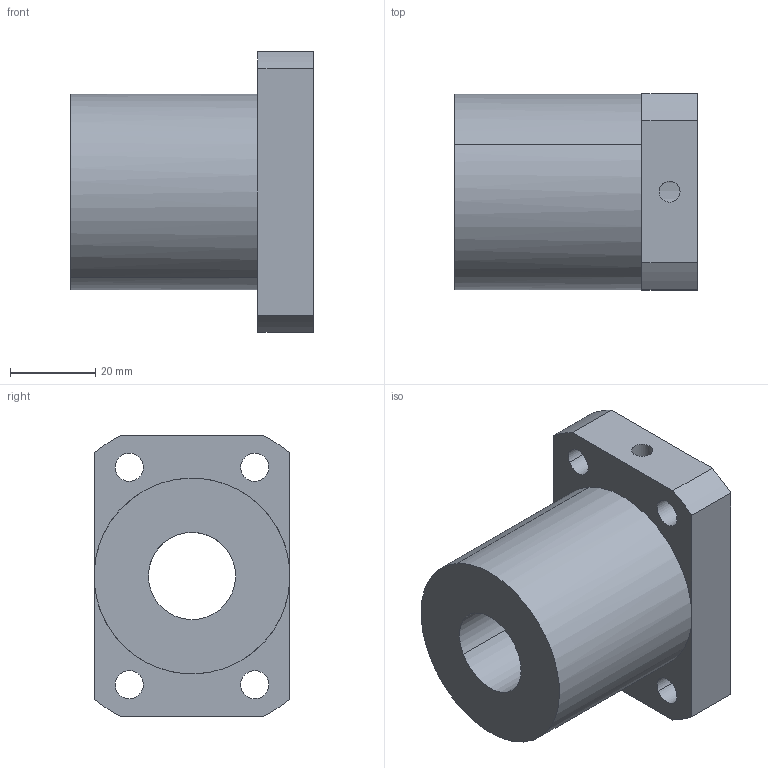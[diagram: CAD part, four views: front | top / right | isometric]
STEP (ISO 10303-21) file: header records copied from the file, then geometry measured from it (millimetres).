
FILE_DESCRIPTION(('CATIA V5 STEP Exchange'),'2;1');
FILE_NAME('C:\Users\aa\Documents\이댈\볼스크류\SFGR\링크X\SFGR2020K.stp','2018-11-16T05:07:52+00:00',('none'),('none'),'CATIA Version 5 Release 20 SP 7 (IN-10)','CATIA V5 STEP AP203','none');
FILE_SCHEMA(('CONFIG_CONTROL_DESIGN'));
Length unit declared in the file: millimetre
Products named in the file (1): Part1
Bounding box: 57 x 46 x 66 mm (x, y, z)
Volume: 89294.4 mm3; surface area: 19625.7 mm2
Topology: 1 solids, 1 shells, 40 faces, 105 edges, 70 vertices
Faces by surface type: cylinder 28, plane 12
Entity records: 1467 total; most frequent: CARTESIAN_POINT 462, ORIENTED_EDGE 210, DIRECTION 156, EDGE_CURVE 105, AXIS2_PLACEMENT_3D 80, VERTEX_POINT 70, EDGE_LOOP 57, CIRCLE 45
